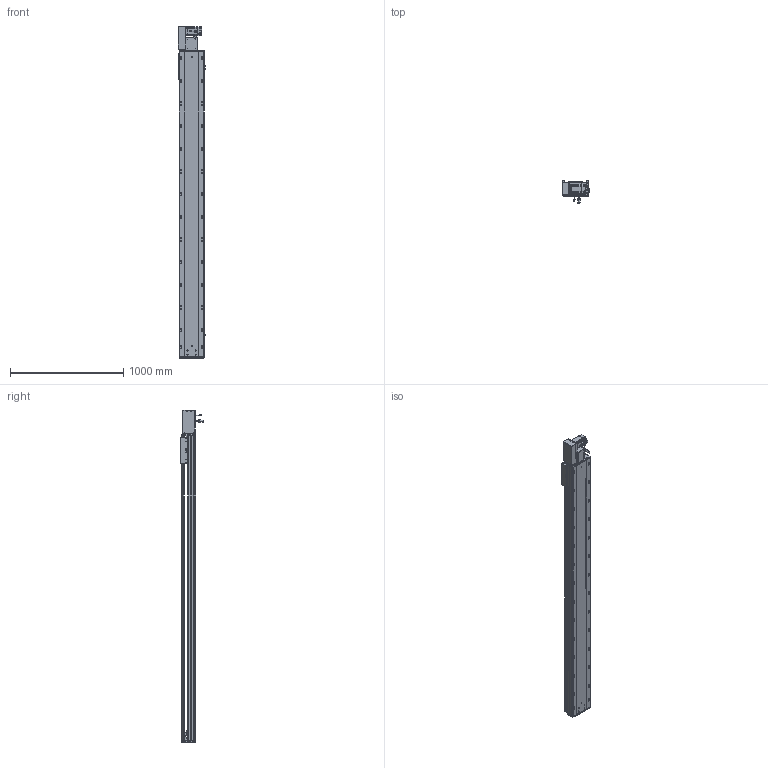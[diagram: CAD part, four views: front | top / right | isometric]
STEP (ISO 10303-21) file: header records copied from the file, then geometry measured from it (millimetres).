
FILE_DESCRIPTION (( 'STEP AP203' ), '1' );
FILE_NAME ('RY220-T-300-LK.SLDASM_2350.step', '2022-07-25T08:15:43', ( '' ), ( '' ), 'SwSTEP 2.0', 'SolidWorks 2016', '' );
FILE_SCHEMA (( 'CONFIG_CONTROL_DESIGN' ));
Length unit declared in the file: millimetre
Products named in the file (14): 覜茼ん672; RY220-T-300-LK.SLDASM_2350; RY220圉猾敕々湍臏賑輸; 110A-T-肮祭謫釱傷裔; RY220-同步轮副支撑座6304×2; RY220-T-蛌殏萇儂假蚾啣(750W); RY220-T-湍謫欶(鍼踢); RY220-T菁釱-300_2350; RY220翋肮祭謫裔啣; 滅袉蝶18-15; RY220翋肮祭謫釱; 怢湛750W_ECMA-CX0807ES; RY220-俋离672覜茼んえ; RY220-T-300-奻裔啣_2350
Assembly tree (18 placements, depth 2):
  RY220-T-300-LK.SLDASM_2350
    RY220-T菁釱-300_2350
    RY220翋肮祭謫釱
    覜茼ん672  x3
    RY220圉猾敕々湍臏賑輸
    RY220-T-300-奻裔啣_2350
    RY220-俋离672覜茼んえ
    滅袉蝶18-15  x3
    RY220翋肮祭謫裔啣  x2
    110A-T-肮祭謫釱傷裔
    怢湛750W_ECMA-CX0807ES
    RY220-T-湍謫欶(鍼踢)
    RY220-T-蛌殏萇儂假蚾啣(750W)
    RY220-同步轮副支撑座6304×2
Bounding box: 239.7 x 198.77 x 2929 mm (x, y, z)
Volume: 20997117.7 mm3; surface area: 6427906.3 mm2
Topology: 19 solids, 19 shells, 2898 faces, 8011 edges, 5034 vertices
Faces by surface type: cylinder 1410, plane 1069, cone 337, bspline 56, sphere 16, torus 10
Entity records: 96579 total; most frequent: CARTESIAN_POINT 27323, ORIENTED_EDGE 14330, DIRECTION 13760, EDGE_CURVE 7165, AXIS2_PLACEMENT_3D 4940, VERTEX_POINT 4658, LINE 3880, VECTOR 3880
